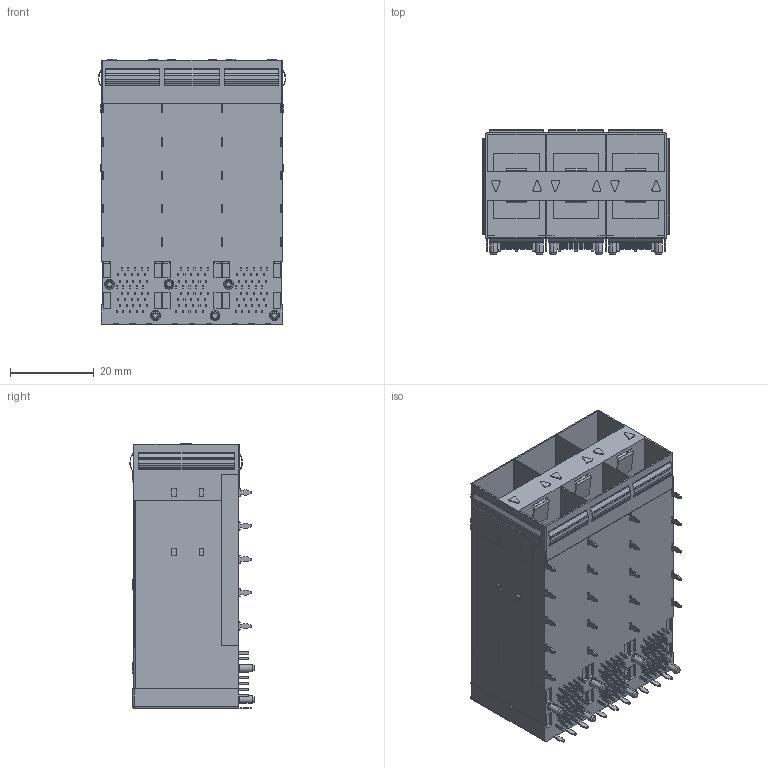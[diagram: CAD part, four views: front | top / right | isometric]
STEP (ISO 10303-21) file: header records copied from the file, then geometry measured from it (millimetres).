
FILE_DESCRIPTION (( 'STEP AP203' ), '1' );
FILE_NAME ('22303_SFP+ 2X3 俋絳嫖翐.STEP', '2024-06-05T00:30:10', ( '' ), ( '' ), 'SwSTEP 2.0', 'SolidWorks 2018', '' );
FILE_SCHEMA (( 'CONFIG_CONTROL_DESIGN' ));
Length unit declared in the file: millimetre
Products named in the file (1): 22303_SFP+ 2X3 俋絳嫖翐
Bounding box: 44.81 x 29.78 x 63.5 mm (x, y, z)
Volume: 35368.6 mm3; surface area: 26876.2 mm2
Topology: 1 solids, 1 shells, 1690 faces, 4704 edges, 3194 vertices
Faces by surface type: plane 1240, cylinder 424, cone 24, sphere 2
Entity records: 54191 total; most frequent: CARTESIAN_POINT 9587, ORIENTED_EDGE 9404, DIRECTION 8960, EDGE_CURVE 4702, LINE 3826, VECTOR 3826, VERTEX_POINT 3194, AXIS2_PLACEMENT_3D 2567
